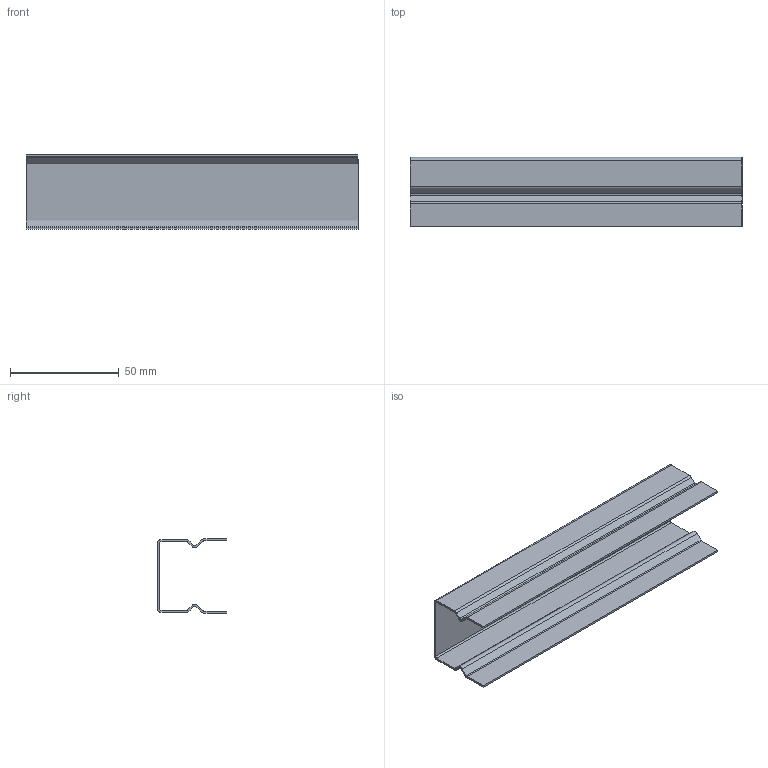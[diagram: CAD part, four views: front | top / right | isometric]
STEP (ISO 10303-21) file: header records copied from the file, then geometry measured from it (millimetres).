
FILE_DESCRIPTION (( 'STEP AP203' ), '1' );
FILE_NAME ('70-0272-00 REV 1, CABLE COVER, 12in RIGID, BLACK.STEP', '2017-01-25T17:44:35', ( '' ), ( '' ), 'SwSTEP 2.0', 'SolidWorks 2012', '' );
FILE_SCHEMA (( 'CONFIG_CONTROL_DESIGN' ));
Length unit declared in the file: inch
Products named in the file (1): 70-0272-00 REV 1, CABLE COVER, 12in RIGID, BLACK
Bounding box: 152.4 x 31.77 x 34.12 mm (x, y, z)
Volume: 13743.9 mm3; surface area: 30520.1 mm2
Topology: 1 solids, 1 shells, 70 faces, 140 edges, 72 vertices
Faces by surface type: plane 54, cylinder 16
Entity records: 1803 total; most frequent: DIRECTION 314, CARTESIAN_POINT 283, ORIENTED_EDGE 280, EDGE_CURVE 140, LINE 108, VECTOR 108, AXIS2_PLACEMENT_3D 103, VERTEX_POINT 72
